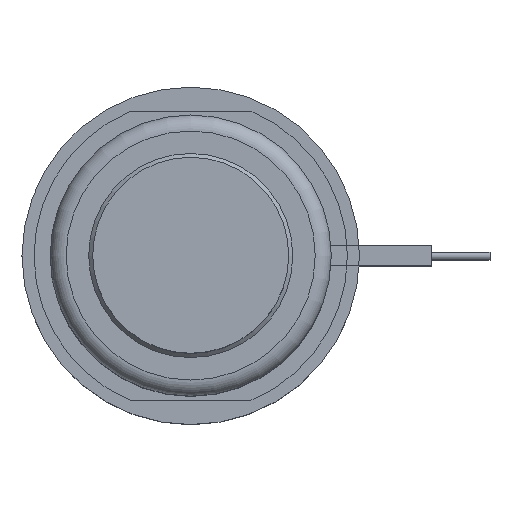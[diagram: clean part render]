
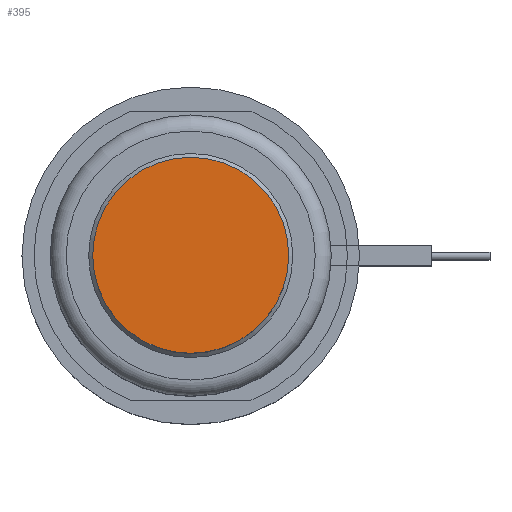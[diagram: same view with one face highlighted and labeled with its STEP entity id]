
A CAD part, top view. The second image highlights one B-rep face of the part: STEP entity #395.
In plain terms, the highlighted planar face has unit normal (0, 0, 1).
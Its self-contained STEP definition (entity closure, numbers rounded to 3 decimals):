
#293=CIRCLE('',#1402,12.2);
#395=ADVANCED_FACE('',(#509),#449,.F.);
#449=PLANE('',#1403);
#509=FACE_OUTER_BOUND('',#632,.T.);
#632=EDGE_LOOP('',(#898));
#898=ORIENTED_EDGE('',*,*,#1151,.F.);
#1017=VERTEX_POINT('',#2205);
#1151=EDGE_CURVE('',#1017,#1017,#293,.T.);
#1402=AXIS2_PLACEMENT_3D('',#2204,#1757,#1758);
#1403=AXIS2_PLACEMENT_3D('',#2206,#1759,#1760);
#1757=DIRECTION('',(0.,0.,-1.));
#1758=DIRECTION('',(-1.,0.,0.));
#1759=DIRECTION('',(0.,0.,-1.));
#1760=DIRECTION('',(-1.,0.,0.));
#2204=CARTESIAN_POINT('',(0.,0.,18.));
#2205=CARTESIAN_POINT('',(-12.2,0.,18.));
#2206=CARTESIAN_POINT('',(0.,0.,18.));
